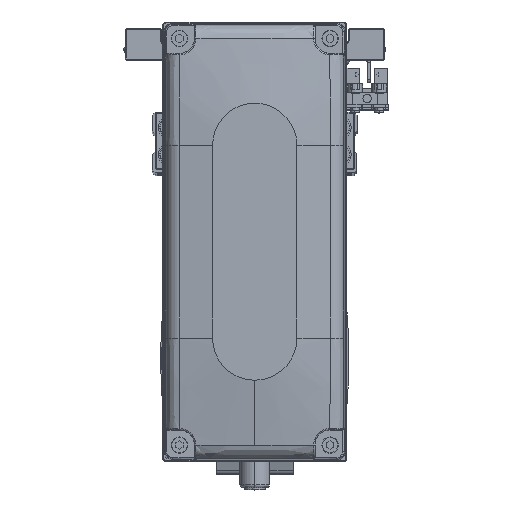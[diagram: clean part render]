
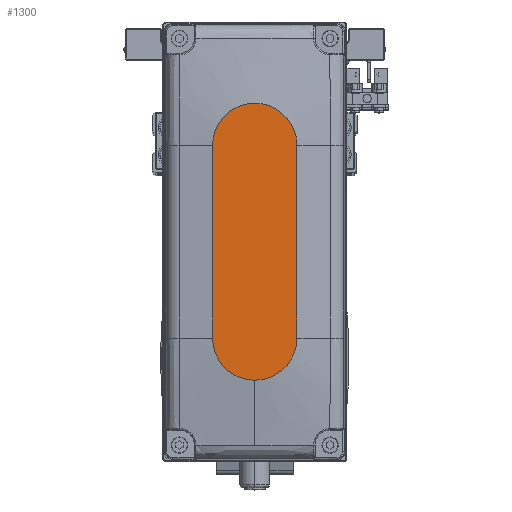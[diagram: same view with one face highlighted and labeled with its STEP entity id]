
A CAD part, top view. The second image highlights one B-rep face of the part: STEP entity #1300.
In plain terms, the highlighted planar face has unit normal (0, 0, 1).
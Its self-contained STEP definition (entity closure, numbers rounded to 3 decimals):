
#937 = CIRCLE ( 'NONE', #26670, 14. ) ;
#1300 = ADVANCED_FACE ( 'NONE', ( #21779 ), #35805, .T. ) ;
#2385 = DIRECTION ( 'NONE',  ( 0., 0., 1. ) ) ;
#3035 = EDGE_LOOP ( 'NONE', ( #36570, #34167, #7911, #29948, #20269 ) ) ;
#3345 = AXIS2_PLACEMENT_3D ( 'NONE', #37320, #5780, #19816 ) ;
#3364 = EDGE_CURVE ( 'NONE', #30133, #18350, #23230, .T. ) ;
#4062 = LINE ( 'NONE', #18112, #6248 ) ;
#4258 = CARTESIAN_POINT ( 'NONE',  ( 0., 0., 35. ) ) ;
#5614 = CARTESIAN_POINT ( 'NONE',  ( -32., 14., 35. ) ) ;
#5780 = DIRECTION ( 'NONE',  ( 0., 0., 1. ) ) ;
#6248 = VECTOR ( 'NONE', #32132, 1000. ) ;
#7217 = CARTESIAN_POINT ( 'NONE',  ( 46., 0., 35. ) ) ;
#7911 = ORIENTED_EDGE ( 'NONE', *, *, #38284, .T. ) ;
#12742 = DIRECTION ( 'NONE',  ( 1., 0., 0. ) ) ;
#13032 = DIRECTION ( 'NONE',  ( 1., 0., 0. ) ) ;
#13647 = EDGE_CURVE ( 'NONE', #18350, #30384, #4062, .T. ) ;
#15861 = EDGE_CURVE ( 'NONE', #37770, #30133, #35990, .T. ) ;
#16166 = AXIS2_PLACEMENT_3D ( 'NONE', #33922, #2385, #16449 ) ;
#16449 = DIRECTION ( 'NONE',  ( 1., 0., 0. ) ) ;
#16463 = AXIS2_PLACEMENT_3D ( 'NONE', #4258, #18304, #32334 ) ;
#18112 = CARTESIAN_POINT ( 'NONE',  ( -32., 14., 35. ) ) ;
#18304 = DIRECTION ( 'NONE',  ( 0., 0., 1. ) ) ;
#18350 = VERTEX_POINT ( 'NONE', #20790 ) ;
#19816 = DIRECTION ( 'NONE',  ( 1., 0., 0. ) ) ;
#20269 = ORIENTED_EDGE ( 'NONE', *, *, #3364, .T. ) ;
#20790 = CARTESIAN_POINT ( 'NONE',  ( 32., 14., 35. ) ) ;
#21779 = FACE_OUTER_BOUND ( 'NONE', #3035, .T. ) ;
#22439 = VERTEX_POINT ( 'NONE', #43853 ) ;
#23230 = CIRCLE ( 'NONE', #3345, 14. ) ;
#25257 = VECTOR ( 'NONE', #13032, 1000. ) ;
#26670 = AXIS2_PLACEMENT_3D ( 'NONE', #30198, #44238, #12742 ) ;
#29404 = CARTESIAN_POINT ( 'NONE',  ( 32., -14., 35. ) ) ;
#29948 = ORIENTED_EDGE ( 'NONE', *, *, #15861, .T. ) ;
#30133 = VERTEX_POINT ( 'NONE', #7217 ) ;
#30198 = CARTESIAN_POINT ( 'NONE',  ( -32., 0., 35. ) ) ;
#30384 = VERTEX_POINT ( 'NONE', #5614 ) ;
#30516 = LINE ( 'NONE', #44539, #25257 ) ;
#32132 = DIRECTION ( 'NONE',  ( -1., 0., 0. ) ) ;
#32334 = DIRECTION ( 'NONE',  ( 1., 0., 0. ) ) ;
#33922 = CARTESIAN_POINT ( 'NONE',  ( 32., 0., 35. ) ) ;
#34167 = ORIENTED_EDGE ( 'NONE', *, *, #37481, .T. ) ;
#35805 = PLANE ( 'NONE',  #16463 ) ;
#35990 = CIRCLE ( 'NONE', #16166, 14. ) ;
#36570 = ORIENTED_EDGE ( 'NONE', *, *, #13647, .T. ) ;
#37320 = CARTESIAN_POINT ( 'NONE',  ( 32., 0., 35. ) ) ;
#37481 = EDGE_CURVE ( 'NONE', #30384, #22439, #937, .T. ) ;
#37770 = VERTEX_POINT ( 'NONE', #29404 ) ;
#38284 = EDGE_CURVE ( 'NONE', #22439, #37770, #30516, .T. ) ;
#43853 = CARTESIAN_POINT ( 'NONE',  ( -32., -14., 35. ) ) ;
#44238 = DIRECTION ( 'NONE',  ( 0., 0., 1. ) ) ;
#44539 = CARTESIAN_POINT ( 'NONE',  ( -32., -14., 35. ) ) ;
